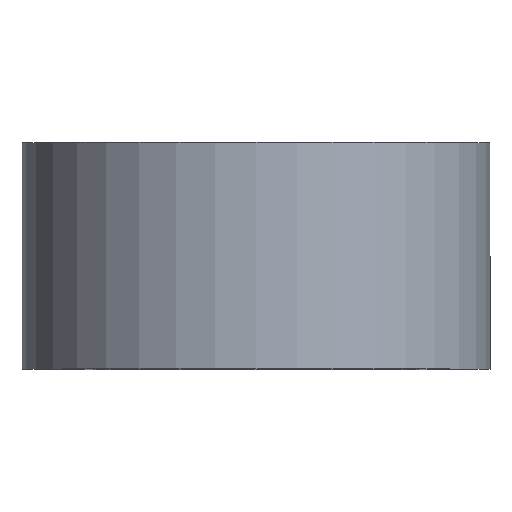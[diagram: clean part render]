
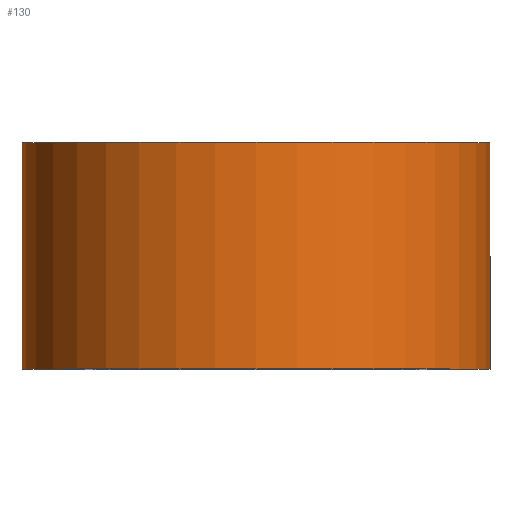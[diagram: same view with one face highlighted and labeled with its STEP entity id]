
A CAD part, top view. The second image highlights one B-rep face of the part: STEP entity #130.
In plain terms, the highlighted cylindrical face has radius 31 mm (diameter 62 mm), a partial arc.
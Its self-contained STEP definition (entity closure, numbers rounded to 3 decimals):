
#2 = VERTEX_POINT ( 'NONE', #274 ) ;
#12 = CARTESIAN_POINT ( 'NONE',  ( 31., 30., 0. ) ) ;
#14 = DIRECTION ( 'NONE',  ( -1., 0., 0. ) ) ;
#20 = DIRECTION ( 'NONE',  ( -1., 0., 0. ) ) ;
#22 = FACE_OUTER_BOUND ( 'NONE', #48, .T. ) ;
#48 = EDGE_LOOP ( 'NONE', ( #172, #54, #100, #56 ) ) ;
#54 = ORIENTED_EDGE ( 'NONE', *, *, #148, .T. ) ;
#56 = ORIENTED_EDGE ( 'NONE', *, *, #104, .F. ) ;
#57 = CARTESIAN_POINT ( 'NONE',  ( -31., 30., 0. ) ) ;
#73 = LINE ( 'NONE', #227, #291 ) ;
#77 = VECTOR ( 'NONE', #259, 1000. ) ;
#83 = DIRECTION ( 'NONE',  ( 0., 1., 0. ) ) ;
#91 = VERTEX_POINT ( 'NONE', #152 ) ;
#99 = LINE ( 'NONE', #234, #77 ) ;
#100 = ORIENTED_EDGE ( 'NONE', *, *, #299, .F. ) ;
#104 = EDGE_CURVE ( 'NONE', #91, #122, #73, .T. ) ;
#114 = AXIS2_PLACEMENT_3D ( 'NONE', #207, #83, #253 ) ;
#122 = VERTEX_POINT ( 'NONE', #57 ) ;
#130 = ADVANCED_FACE ( 'NONE', ( #22 ), #286, .T. ) ;
#137 = DIRECTION ( 'NONE',  ( 0., 1., 0. ) ) ;
#143 = EDGE_CURVE ( 'NONE', #91, #2, #223, .T. ) ;
#145 = DIRECTION ( 'NONE',  ( 0., 1., 0. ) ) ;
#148 = EDGE_CURVE ( 'NONE', #2, #196, #99, .T. ) ;
#152 = CARTESIAN_POINT ( 'NONE',  ( -31., 0., 0. ) ) ;
#172 = ORIENTED_EDGE ( 'NONE', *, *, #143, .T. ) ;
#196 = VERTEX_POINT ( 'NONE', #12 ) ;
#207 = CARTESIAN_POINT ( 'NONE',  ( 0., 0., 0. ) ) ;
#222 = AXIS2_PLACEMENT_3D ( 'NONE', #290, #137, #14 ) ;
#223 = CIRCLE ( 'NONE', #222, 31. ) ;
#225 = AXIS2_PLACEMENT_3D ( 'NONE', #236, #145, #20 ) ;
#227 = CARTESIAN_POINT ( 'NONE',  ( -31., 0., 0. ) ) ;
#234 = CARTESIAN_POINT ( 'NONE',  ( 31., 0., 0. ) ) ;
#236 = CARTESIAN_POINT ( 'NONE',  ( 0., 30., 0. ) ) ;
#250 = DIRECTION ( 'NONE',  ( 0., 1., 0. ) ) ;
#253 = DIRECTION ( 'NONE',  ( -1., 0., 0. ) ) ;
#259 = DIRECTION ( 'NONE',  ( 0., 1., 0. ) ) ;
#274 = CARTESIAN_POINT ( 'NONE',  ( 31., 0., 0. ) ) ;
#277 = CIRCLE ( 'NONE', #225, 31. ) ;
#286 = CYLINDRICAL_SURFACE ( 'NONE', #114, 31. ) ;
#290 = CARTESIAN_POINT ( 'NONE',  ( 0., 0., 0. ) ) ;
#291 = VECTOR ( 'NONE', #250, 1000. ) ;
#299 = EDGE_CURVE ( 'NONE', #122, #196, #277, .T. ) ;
